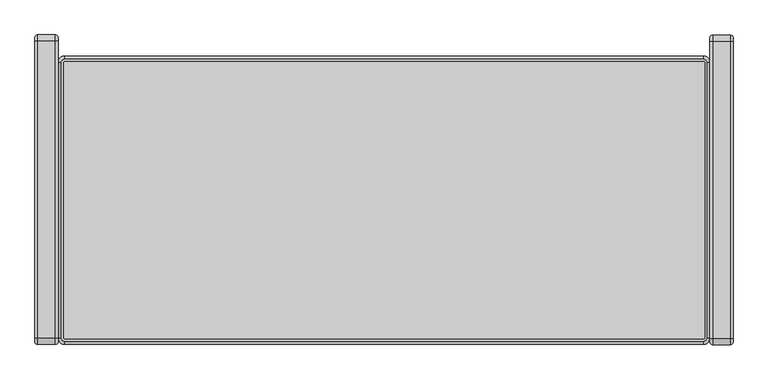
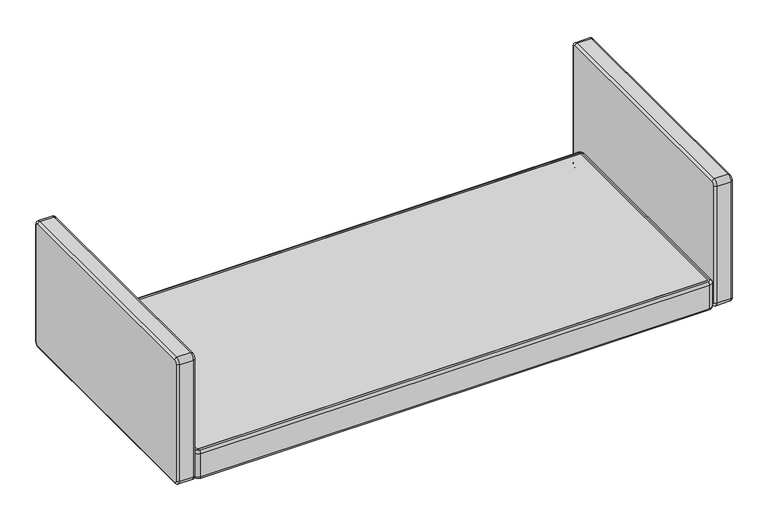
"""IFC4 building model written with IfcOpenShell, lengths in millimetres: furniture geometry, Fredericia - EJ220 Sofa 2 seater 86 - 2052 : Fredericia - EJ220 Sofa 2 seater 86 - 2052."""

from ifc_helpers import new_model, si_unit, point, frame, origin, place, context, project, spatial, circle_curve, ellipse_curve, trimmed, source, transform, mapped, element, save
from ifc_brep_helpers import plane_surface, cylinder_surface, revolved_surface, advanced_brep


def furniture_a04cfc03(model_context):
    return source(origin(), model_context, "Body", "AdvancedBrep", [
        advanced_brep(
        [(-856.6335362, 39.8, 192.7880862), (-856.6335362, 770.9641303, 192.7880862), (-847.0335362, 780.5641303, 192.7880862), (846.5320736, 780.5641303, 192.7880862), (856.1320736, 770.9641303, 192.7880862), (856.1320736, 39.8, 192.7880862), (846.5320736, 30.2, 192.7880862), (-847.0335362, 30.2, 192.7880862), (-847.0335362, 37.7, 290.0), (847.3876929, 37.7, 290.0), (849.4876929, 39.8, 290.0), (849.4876929, 770.9641303, 290.0), (847.3876929, 773.0641303, 290.0), (-847.0335362, 773.0641303, 290.0), (-849.1335362, 770.9641303, 290.0), (-849.1335362, 39.8, 290.0), (-847.0335362, 37.7, 289.8211901), (846.5320736, 37.7, 289.8211901), (847.3876929, 37.7, 289.8211901), (849.4876929, 39.8, 289.8211901), (849.4876929, 770.9641303, 289.8211901), (847.3876929, 773.0641303, 289.8211901), (846.5320736, 773.0641303, 289.8211901), (-847.0335362, 773.0641303, 289.8211901), (-849.1335362, 770.9641303, 289.8211901), (-849.1335362, 39.8, 289.8211901), (-864.1335362, 770.9641303, 200.2880862), (-864.1335362, 39.8, 200.2880862), (-864.1335362, 39.8, 282.3211901), (-864.1335362, 770.9641303, 282.3211901), (-856.6335362, 39.8, 289.8211901), (-856.6335362, 770.9641303, 289.8211901), (-847.0335362, 22.7, 200.2880862), (846.5320736, 22.7, 200.2880862), (846.5320736, 22.7, 282.3211901), (-847.0335362, 22.7, 282.3211901), (846.5320736, 30.2, 289.8211901), (-847.0335362, 30.2, 289.8211901), (863.6320736, 39.8, 200.2880862), (863.6320736, 770.9641303, 200.2880862), (863.6320736, 770.9641303, 282.3211901), (863.6320736, 39.8, 282.3211901), (856.1320736, 770.9641303, 289.8211901), (856.1320736, 39.8, 289.8211901), (846.5320736, 788.0641303, 200.2880862), (-847.0335362, 788.0641303, 200.2880862), (-847.0335362, 788.0641303, 282.3211901), (846.5320736, 788.0641303, 282.3211901), (-847.0335362, 780.5641303, 289.8211901), (846.5320736, 780.5641303, 289.8211901)],
        [
            (0, 1),
            (1, 2, circle_curve(frame((-847.0335362, 770.9641303, 192.7880862), z_axis=(0.0, 0.0, -1.0), x_axis=(0.0, 1.0, 0.0)), 9.6)),
            (2, 3),
            (3, 4, circle_curve(frame((846.5320736, 770.9641303, 192.7880862), z_axis=(0.0, 0.0, -1.0), x_axis=(1.0, 0.0, 0.0)), 9.6)),
            (4, 5),
            (5, 6, circle_curve(frame((846.5320736, 39.8, 192.7880862), z_axis=(0.0, 0.0, -1.0), x_axis=(0.0, -1.0, 0.0)), 9.6)),
            (6, 7),
            (7, 0, circle_curve(frame((-847.0335362, 39.8, 192.7880862), z_axis=(0.0, 0.0, -1.0), x_axis=(-1.0, 0.0, 0.0)), 9.6)),
            (8, 9),
            (9, 10, circle_curve(frame((847.3876929, 39.8, 290.0), z_axis=(0.0, 0.0, 1.0), x_axis=(0.0, 1.0, 0.0)), 2.1)),
            (10, 11),
            (11, 12, circle_curve(frame((847.3876929, 770.9641303, 290.0), z_axis=(0.0, 0.0, 1.0), x_axis=(0.0, 1.0, 0.0)), 2.1)),
            (12, 13),
            (13, 14, circle_curve(frame((-847.0335362, 770.9641303, 290.0), z_axis=(0.0, 0.0, 1.0), x_axis=(0.0, 1.0, 0.0)), 2.1)),
            (14, 15),
            (15, 8, circle_curve(frame((-847.0335362, 39.8, 290.0), z_axis=(0.0, 0.0, 1.0), x_axis=(0.0, 1.0, 0.0)), 2.1)),
            (8, 16),
            (16, 17),
            (17, 18),
            (18, 9),
            (18, 19, circle_curve(frame((847.3876929, 39.8, 289.8211901), z_axis=(0.0, 0.0, 1.0), x_axis=(0.0, 1.0, 0.0)), 2.1)),
            (19, 10),
            (19, 20),
            (20, 11),
            (20, 21, circle_curve(frame((847.3876929, 770.9641303, 289.8211901), z_axis=(0.0, 0.0, 1.0), x_axis=(0.0, 1.0, 0.0)), 2.1)),
            (21, 12),
            (21, 22),
            (22, 23),
            (23, 13),
            (23, 24, circle_curve(frame((-847.0335362, 770.9641303, 289.8211901), z_axis=(0.0, 0.0, 1.0), x_axis=(0.0, 1.0, 0.0)), 2.1)),
            (24, 14),
            (24, 25),
            (25, 15),
            (25, 16, circle_curve(frame((-847.0335362, 39.8, 289.8211901), z_axis=(0.0, 0.0, 1.0), x_axis=(0.0, 1.0, 0.0)), 2.1)),
            (26, 1, circle_curve(frame((-856.6335362, 770.9641303, 200.2880862), z_axis=(0.0, -1.0, 0.0), x_axis=(1.0, 0.0, 0.0)), 7.5)),
            (0, 27, circle_curve(frame((-856.6335362, 39.8, 200.2880862), z_axis=(0.0, 1.0, 0.0), x_axis=(1.0, 0.0, 0.0)), 7.5)),
            (27, 26),
            (27, 28),
            (28, 29),
            (29, 26),
            (28, 30, circle_curve(frame((-856.6335362, 39.8, 282.3211901), z_axis=(0.0, 1.0, 0.0), x_axis=(1.0, 0.0, 0.0)), 7.5)),
            (30, 31),
            (31, 29, circle_curve(frame((-856.6335362, 770.9641303, 282.3211901), z_axis=(0.0, -1.0, 0.0), x_axis=(1.0, 0.0, 0.0)), 7.5)),
            (32, 7, circle_curve(frame((-847.0335362, 30.2, 200.2880862), z_axis=(1.0, 0.0, 0.0), x_axis=(0.0, 1.0, 0.0)), 7.5)),
            (6, 33, circle_curve(frame((846.5320736, 30.2, 200.2880862), z_axis=(-1.0, 0.0, 0.0), x_axis=(0.0, 1.0, 0.0)), 7.5)),
            (33, 32),
            (33, 34),
            (34, 35),
            (35, 32),
            (34, 36, circle_curve(frame((846.5320736, 30.2, 282.3211901), z_axis=(-1.0, 0.0, 0.0), x_axis=(0.0, 1.0, 0.0)), 7.5)),
            (36, 37),
            (37, 35, circle_curve(frame((-847.0335362, 30.2, 282.3211901), z_axis=(1.0, 0.0, 0.0), x_axis=(0.0, 1.0, 0.0)), 7.5)),
            (38, 5, circle_curve(frame((856.1320736, 39.8, 200.2880862), z_axis=(0.0, 1.0, 0.0), x_axis=(-1.0, 0.0, 0.0)), 7.5)),
            (4, 39, circle_curve(frame((856.1320736, 770.9641303, 200.2880862), z_axis=(0.0, -1.0, 0.0), x_axis=(-1.0, 0.0, 0.0)), 7.5)),
            (39, 38),
            (39, 40),
            (40, 41),
            (41, 38),
            (40, 42, circle_curve(frame((856.1320736, 770.9641303, 282.3211901), z_axis=(0.0, -1.0, 0.0), x_axis=(-1.0, 0.0, 0.0)), 7.5)),
            (42, 43),
            (43, 41, circle_curve(frame((856.1320736, 39.8, 282.3211901), z_axis=(0.0, 1.0, 0.0), x_axis=(-1.0, 0.0, 0.0)), 7.5)),
            (44, 3, circle_curve(frame((846.5320736, 780.5641303, 200.2880862), z_axis=(-1.0, 0.0, 0.0), x_axis=(0.0, -1.0, 0.0)), 7.5)),
            (2, 45, circle_curve(frame((-847.0335362, 780.5641303, 200.2880862), z_axis=(1.0, 0.0, 0.0), x_axis=(0.0, -1.0, 0.0)), 7.5)),
            (45, 44),
            (45, 46),
            (46, 47),
            (47, 44),
            (46, 48, circle_curve(frame((-847.0335362, 780.5641303, 282.3211901), z_axis=(1.0, 0.0, 0.0), x_axis=(0.0, -1.0, 0.0)), 7.5)),
            (48, 49),
            (49, 47, circle_curve(frame((846.5320736, 780.5641303, 282.3211901), z_axis=(-1.0, 0.0, 0.0), x_axis=(0.0, -1.0, 0.0)), 7.5)),
            (26, 45, circle_curve(frame((-847.0335362, 770.9641303, 200.2880862), z_axis=(0.0, 0.0, -1.0), x_axis=(0.0, 1.0, 0.0)), 17.1)),
            (29, 46, circle_curve(frame((-847.0335362, 770.9641303, 282.3211901), z_axis=(0.0, 0.0, -1.0), x_axis=(0.0, 1.0, 0.0)), 17.1)),
            (31, 48, circle_curve(frame((-847.0335362, 770.9641303, 289.8211901), z_axis=(0.0, 0.0, -1.0), x_axis=(0.0, 1.0, 0.0)), 9.6)),
            (32, 27, circle_curve(frame((-847.0335362, 39.8, 200.2880862), z_axis=(0.0, 0.0, -1.0), x_axis=(-1.0, 0.0, 0.0)), 17.1)),
            (35, 28, circle_curve(frame((-847.0335362, 39.8, 282.3211901), z_axis=(0.0, 0.0, -1.0), x_axis=(-1.0, 0.0, 0.0)), 17.1)),
            (37, 30, circle_curve(frame((-847.0335362, 39.8, 289.8211901), z_axis=(0.0, 0.0, -1.0), x_axis=(-1.0, 0.0, 0.0)), 9.6)),
            (38, 33, circle_curve(frame((846.5320736, 39.8, 200.2880862), z_axis=(0.0, 0.0, -1.0), x_axis=(0.0, -1.0, 0.0)), 17.1)),
            (41, 34, circle_curve(frame((846.5320736, 39.8, 282.3211901), z_axis=(0.0, 0.0, -1.0), x_axis=(0.0, -1.0, 0.0)), 17.1)),
            (43, 36, circle_curve(frame((846.5320736, 39.8, 289.8211901), z_axis=(0.0, 0.0, -1.0), x_axis=(0.0, -1.0, 0.0)), 9.6)),
            (44, 39, circle_curve(frame((846.5320736, 770.9641303, 200.2880862), z_axis=(0.0, 0.0, -1.0), x_axis=(1.0, 0.0, 0.0)), 17.1)),
            (47, 40, circle_curve(frame((846.5320736, 770.9641303, 282.3211901), z_axis=(0.0, 0.0, -1.0), x_axis=(1.0, 0.0, 0.0)), 17.1)),
            (49, 42, circle_curve(frame((846.5320736, 770.9641303, 289.8211901), z_axis=(0.0, 0.0, -1.0), x_axis=(1.0, 0.0, 0.0)), 9.6)),
        ],
        [
            plane_surface(frame((401.9530797, 37.7, 192.7880862), z_axis=(0.0, 0.0, -1.0), x_axis=(-1.0, 0.0, 0.0))),
            plane_surface(frame((401.9530797, 37.7, 290.0), z_axis=(0.0, 0.0, 1.0), x_axis=(1.0, 0.0, 0.0))),
            plane_surface(frame((-847.0335362, 37.7, 290.0), z_axis=(0.0, -1.0, 0.0), x_axis=(0.0, 0.0, -1.0))),
            cylinder_surface(frame((847.3876929, 39.8, 192.7880862), z_axis=(0.0, 0.0, 1.0), x_axis=(0.0, 1.0, 0.0)), 2.1),
            plane_surface(frame((849.4876929, 39.8, 290.0), z_axis=(1.0, 0.0, 0.0), x_axis=(0.0, 0.0, -1.0))),
            cylinder_surface(frame((847.3876929, 770.9641303, 192.7880862), z_axis=(0.0, 0.0, 1.0), x_axis=(0.0, 1.0, 0.0)), 2.1),
            plane_surface(frame((847.3876929, 773.0641303, 290.0), z_axis=(0.0, 1.0, 0.0), x_axis=(0.0, 0.0, -1.0))),
            cylinder_surface(frame((-847.0335362, 770.9641303, 192.7880862), z_axis=(0.0, 0.0, 1.0), x_axis=(0.0, 1.0, 0.0)), 2.1),
            plane_surface(frame((-849.1335362, 770.9641303, 290.0), z_axis=(-1.0, 0.0, 0.0), x_axis=(0.0, 0.0, -1.0))),
            cylinder_surface(frame((-847.0335362, 39.8, 192.7880862), z_axis=(0.0, 0.0, 1.0), x_axis=(0.0, 1.0, 0.0)), 2.1),
            cylinder_surface(frame((-856.6335362, 770.9641303, 200.2880862), z_axis=(0.0, 1.0, 0.0), x_axis=(1.0, 0.0, 0.0)), 7.5),
            plane_surface(frame((-864.1335362, 770.9641303, 200.2880862), z_axis=(-1.0, 0.0, 0.0), x_axis=(0.0, -1.0, 0.0))),
            cylinder_surface(frame((-856.6335362, 770.9641303, 282.3211901), z_axis=(0.0, 1.0, 0.0), x_axis=(1.0, 0.0, 0.0)), 7.5),
            cylinder_surface(frame((-847.0335362, 30.2, 200.2880862), z_axis=(-1.0, 0.0, 0.0), x_axis=(0.0, 1.0, 0.0)), 7.5),
            plane_surface(frame((-847.0335362, 22.7, 200.2880862), z_axis=(0.0, -1.0, 0.0), x_axis=(1.0, 0.0, 0.0))),
            cylinder_surface(frame((-847.0335362, 30.2, 282.3211901), z_axis=(-1.0, 0.0, 0.0), x_axis=(0.0, 1.0, 0.0)), 7.5),
            cylinder_surface(frame((856.1320736, 39.8, 200.2880862), z_axis=(0.0, -1.0, 0.0), x_axis=(-1.0, 0.0, 0.0)), 7.5),
            plane_surface(frame((863.6320736, 39.8, 200.2880862), z_axis=(1.0, 0.0, 0.0), x_axis=(0.0, 1.0, 0.0))),
            cylinder_surface(frame((856.1320736, 39.8, 282.3211901), z_axis=(0.0, -1.0, 0.0), x_axis=(-1.0, 0.0, 0.0)), 7.5),
            cylinder_surface(frame((846.5320736, 780.5641303, 200.2880862), z_axis=(1.0, 0.0, 0.0), x_axis=(0.0, -1.0, 0.0)), 7.5),
            plane_surface(frame((846.5320736, 788.0641303, 200.2880862), z_axis=(0.0, 1.0, 0.0), x_axis=(-1.0, 0.0, 0.0))),
            cylinder_surface(frame((846.5320736, 780.5641303, 282.3211901), z_axis=(1.0, 0.0, 0.0), x_axis=(0.0, -1.0, 0.0)), 7.5),
            revolved_surface(trimmed(ellipse_curve(frame((-847.0335362, 780.5641303, 200.2880862), z_axis=(1.0, 0.0, 0.0), x_axis=(0.0, -1.0, 0.0)), 7.5, 7.5), [point((-847.0335362, 780.5641303, 192.7880862))], [point((-847.0335362, 788.0641303, 200.2880862))], True, "CARTESIAN"), (-847.0335362, 770.9641303, 334.7169816), (0.0, 0.0, 1.0)),
            cylinder_surface(frame((-847.0335362, 770.9641303, 334.7169816), z_axis=(0.0, 0.0, 1.0), x_axis=(0.0, 1.0, 0.0)), 17.1),
            revolved_surface(trimmed(ellipse_curve(frame((-847.0335362, 780.5641303, 282.3211901), z_axis=(1.0, 0.0, 0.0), x_axis=(0.0, -1.0, 0.0)), 7.5, 7.5), [point((-847.0335362, 788.0641303, 282.3211901))], [point((-847.0335362, 780.5641303, 289.8211901))], True, "CARTESIAN"), (-847.0335362, 770.9641303, 334.7169816), (0.0, 0.0, 1.0)),
            revolved_surface(trimmed(ellipse_curve(frame((-856.6335362, 39.8, 200.2880862), z_axis=(0.0, 1.0, 0.0), x_axis=(1.0, 0.0, 0.0)), 7.5, 7.5), [point((-856.6335362, 39.8, 192.7880862))], [point((-864.1335362, 39.8, 200.2880862))], True, "CARTESIAN"), (-847.0335362, 39.8, 334.7169816), (0.0, 0.0, 1.0)),
            cylinder_surface(frame((-847.0335362, 39.8, 334.7169816), z_axis=(0.0, 0.0, 1.0), x_axis=(-1.0, 0.0, 0.0)), 17.1),
            revolved_surface(trimmed(ellipse_curve(frame((-856.6335362, 39.8, 282.3211901), z_axis=(0.0, 1.0, 0.0), x_axis=(1.0, 0.0, 0.0)), 7.5, 7.5), [point((-864.1335362, 39.8, 282.3211901))], [point((-856.6335362, 39.8, 289.8211901))], True, "CARTESIAN"), (-847.0335362, 39.8, 334.7169816), (0.0, 0.0, 1.0)),
            revolved_surface(trimmed(ellipse_curve(frame((846.5320736, 30.2, 200.2880862), z_axis=(-1.0, 0.0, 0.0), x_axis=(0.0, 1.0, 0.0)), 7.5, 7.5), [point((846.5320736, 30.2, 192.7880862))], [point((846.5320736, 22.7, 200.2880862))], True, "CARTESIAN"), (846.5320736, 39.8, 334.7169816), (0.0, 0.0, 1.0)),
            cylinder_surface(frame((846.5320736, 39.8, 334.7169816), z_axis=(0.0, 0.0, 1.0), x_axis=(0.0, -1.0, 0.0)), 17.1),
            revolved_surface(trimmed(ellipse_curve(frame((846.5320736, 30.2, 282.3211901), z_axis=(-1.0, 0.0, 0.0), x_axis=(0.0, 1.0, 0.0)), 7.5, 7.5), [point((846.5320736, 22.7, 282.3211901))], [point((846.5320736, 30.2, 289.8211901))], True, "CARTESIAN"), (846.5320736, 39.8, 334.7169816), (0.0, 0.0, 1.0)),
            revolved_surface(trimmed(ellipse_curve(frame((856.1320736, 770.9641303, 200.2880862), z_axis=(0.0, -1.0, 0.0), x_axis=(-1.0, 0.0, 0.0)), 7.5, 7.5), [point((856.1320736, 770.9641303, 192.7880862))], [point((863.6320736, 770.9641303, 200.2880862))], True, "CARTESIAN"), (846.5320736, 770.9641303, 334.7169816), (0.0, 0.0, 1.0)),
            cylinder_surface(frame((846.5320736, 770.9641303, 334.7169816), z_axis=(0.0, 0.0, 1.0), x_axis=(1.0, 0.0, 0.0)), 17.1),
            revolved_surface(trimmed(ellipse_curve(frame((856.1320736, 770.9641303, 282.3211901), z_axis=(0.0, -1.0, 0.0), x_axis=(-1.0, 0.0, 0.0)), 7.5, 7.5), [point((863.6320736, 770.9641303, 282.3211901))], [point((856.1320736, 770.9641303, 289.8211901))], True, "CARTESIAN"), (846.5320736, 770.9641303, 334.7169816), (0.0, 0.0, 1.0)),
            plane_surface(frame((846.5320736, 770.9641303, 289.8211901), z_axis=(0.0, 0.0, 1.0), x_axis=(1.0, 0.0, 0.0))),
        ],
        [
            (0, [[1, 2, 3, 4, 5, 6, 7, 8]]),
            (1, [[9, 10, 11, 12, 13, 14, 15, 16]]),
            (2, [[-9, 17, 18, 19, 20]]),
            (3, [[-10, -20, 21, 22]]),
            (4, [[-11, -22, 23, 24]]),
            (5, [[-12, -24, 25, 26]]),
            (6, [[-13, -26, 27, 28, 29]]),
            (7, [[-14, -29, 30, 31]]),
            (8, [[-15, -31, 32, 33]]),
            (9, [[-16, -33, 34, -17]]),
            (10, [[35, -1, 36, 37]]),
            (11, [[-37, 38, 39, 40]]),
            (12, [[-39, 41, 42, 43]]),
            (13, [[44, -7, 45, 46]]),
            (14, [[-46, 47, 48, 49]]),
            (15, [[-48, 50, 51, 52]]),
            (16, [[53, -5, 54, 55]]),
            (17, [[-55, 56, 57, 58]]),
            (18, [[-57, 59, 60, 61]]),
            (19, [[62, -3, 63, 64]]),
            (20, [[-64, 65, 66, 67]]),
            (21, [[-66, 68, 69, 70]]),
            (22, [[-35, 71, -63, -2]]),
            (23, [[-40, 72, -65, -71]]),
            (24, [[-43, 73, -68, -72]]),
            (25, [[-36, -8, -44, 74]]),
            (26, [[-38, -74, -49, 75]]),
            (27, [[-41, -75, -52, 76]]),
            (28, [[-45, -6, -53, 77]]),
            (29, [[-47, -77, -58, 78]]),
            (30, [[-50, -78, -61, 79]]),
            (31, [[-54, -4, -62, 80]]),
            (32, [[-56, -80, -67, 81]]),
            (33, [[-59, -81, -70, 82]]),
            (34, [[-42, -76, -51, -79, -60, -82, -69, -73], [-18, -34, -32, -30, -28, -27, -25, -23, -21, -19]]),
        ],
    ),
        advanced_brep(
        [(863.6320736, 29.3862242, 212.3047209), (863.6320736, 29.3862242, 622.6791088), (863.6320736, 38.9862242, 632.2791088), (863.6320736, 826.4456131, 632.2791088), (863.6320736, 836.0456131, 622.6791088), (863.6320736, 836.0456131, 212.3047209), (863.6320736, 826.4456131, 202.7047209), (863.6320736, 38.9862242, 202.7047209), (925.0578822, 29.3862242, 622.6791088), (925.0578822, 29.3862242, 212.3047209), (925.0578822, 38.9862242, 202.7047209), (925.0578822, 826.4456131, 202.7047209), (925.0578822, 836.0456131, 212.3047209), (925.0578822, 836.0456131, 622.6791088), (925.0578822, 826.4456131, 632.2791088), (925.0578822, 38.9862242, 632.2791088), (871.1320736, 21.8862242, 212.3047209), (871.1320736, 21.8862242, 622.6791088), (917.5578822, 21.8862242, 212.3047209), (917.5578822, 21.8862242, 622.6791088), (871.1320736, 38.9862242, 639.7791088), (871.1320736, 826.4456131, 639.7791088), (917.5578822, 38.9862242, 639.7791088), (917.5578822, 826.4456131, 639.7791088), (871.1320736, 843.5456131, 622.6791088), (871.1320736, 843.5456131, 212.3047209), (917.5578822, 843.5456131, 622.6791088), (917.5578822, 843.5456131, 212.3047209), (871.1320736, 826.4456131, 195.2047209), (871.1320736, 38.9862242, 195.2047209), (917.5578822, 826.4456131, 195.2047209), (917.5578822, 38.9862242, 195.2047209)],
        [
            (0, 1),
            (1, 2, circle_curve(frame((863.6320736, 38.9862242, 622.6791088), z_axis=(-1.0, 0.0, 0.0), x_axis=(0.0, -1.0, 0.0)), 9.6)),
            (2, 3),
            (3, 4, circle_curve(frame((863.6320736, 826.4456131, 622.6791088), z_axis=(-1.0, 0.0, 0.0), x_axis=(0.0, 0.0, 1.0)), 9.6)),
            (4, 5),
            (5, 6, circle_curve(frame((863.6320736, 826.4456131, 212.3047209), z_axis=(-1.0, 0.0, 0.0), x_axis=(0.0, 1.0, 0.0)), 9.6)),
            (6, 7),
            (7, 0, circle_curve(frame((863.6320736, 38.9862242, 212.3047209), z_axis=(-1.0, 0.0, 0.0), x_axis=(0.0, 0.0, -1.0)), 9.6)),
            (8, 9),
            (9, 10, circle_curve(frame((925.0578822, 38.9862242, 212.3047209), z_axis=(1.0, 0.0, 0.0), x_axis=(0.0, 0.0, -1.0)), 9.6)),
            (10, 11),
            (11, 12, circle_curve(frame((925.0578822, 826.4456131, 212.3047209), z_axis=(1.0, 0.0, 0.0), x_axis=(0.0, 1.0, 0.0)), 9.6)),
            (12, 13),
            (13, 14, circle_curve(frame((925.0578822, 826.4456131, 622.6791088), z_axis=(1.0, 0.0, 0.0), x_axis=(0.0, 0.0, 1.0)), 9.6)),
            (14, 15),
            (15, 8, circle_curve(frame((925.0578822, 38.9862242, 622.6791088), z_axis=(1.0, 0.0, 0.0), x_axis=(0.0, -1.0, 0.0)), 9.6)),
            (0, 16, circle_curve(frame((871.1320736, 29.3862242, 212.3047209), z_axis=(0.0, 0.0, 1.0), x_axis=(0.0, 1.0, 0.0)), 7.5)),
            (16, 17),
            (17, 1, circle_curve(frame((871.1320736, 29.3862242, 622.6791088), z_axis=(0.0, 0.0, -1.0), x_axis=(0.0, 1.0, 0.0)), 7.5)),
            (16, 18),
            (18, 19),
            (19, 17),
            (18, 9, circle_curve(frame((917.5578822, 29.3862242, 212.3047209), z_axis=(0.0, 0.0, 1.0), x_axis=(0.0, 1.0, 0.0)), 7.5)),
            (8, 19, circle_curve(frame((917.5578822, 29.3862242, 622.6791088), z_axis=(0.0, 0.0, -1.0), x_axis=(0.0, 1.0, 0.0)), 7.5)),
            (2, 20, circle_curve(frame((871.1320736, 38.9862242, 632.2791088), z_axis=(0.0, 1.0, 0.0), x_axis=(0.0, 0.0, -1.0)), 7.5)),
            (20, 21),
            (21, 3, circle_curve(frame((871.1320736, 826.4456131, 632.2791088), z_axis=(0.0, -1.0, 0.0), x_axis=(0.0, 0.0, -1.0)), 7.5)),
            (20, 22),
            (22, 23),
            (23, 21),
            (22, 15, circle_curve(frame((917.5578822, 38.9862242, 632.2791088), z_axis=(0.0, 1.0, 0.0), x_axis=(0.0, 0.0, -1.0)), 7.5)),
            (14, 23, circle_curve(frame((917.5578822, 826.4456131, 632.2791088), z_axis=(0.0, -1.0, 0.0), x_axis=(0.0, 0.0, -1.0)), 7.5)),
            (4, 24, circle_curve(frame((871.1320736, 836.0456131, 622.6791088), z_axis=(0.0, 0.0, -1.0), x_axis=(0.0, -1.0, 0.0)), 7.5)),
            (24, 25),
            (25, 5, circle_curve(frame((871.1320736, 836.0456131, 212.3047209), z_axis=(0.0, 0.0, 1.0), x_axis=(0.0, -1.0, 0.0)), 7.5)),
            (24, 26),
            (26, 27),
            (27, 25),
            (26, 13, circle_curve(frame((917.5578822, 836.0456131, 622.6791088), z_axis=(0.0, 0.0, -1.0), x_axis=(0.0, -1.0, 0.0)), 7.5)),
            (12, 27, circle_curve(frame((917.5578822, 836.0456131, 212.3047209), z_axis=(0.0, 0.0, 1.0), x_axis=(0.0, -1.0, 0.0)), 7.5)),
            (6, 28, circle_curve(frame((871.1320736, 826.4456131, 202.7047209), z_axis=(0.0, -1.0, 0.0), x_axis=(0.0, 0.0, 1.0)), 7.5)),
            (28, 29),
            (29, 7, circle_curve(frame((871.1320736, 38.9862242, 202.7047209), z_axis=(0.0, 1.0, 0.0), x_axis=(0.0, 0.0, 1.0)), 7.5)),
            (28, 30),
            (30, 31),
            (31, 29),
            (30, 11, circle_curve(frame((917.5578822, 826.4456131, 202.7047209), z_axis=(0.0, -1.0, 0.0), x_axis=(0.0, 0.0, 1.0)), 7.5)),
            (10, 31, circle_curve(frame((917.5578822, 38.9862242, 202.7047209), z_axis=(0.0, 1.0, 0.0), x_axis=(0.0, 0.0, 1.0)), 7.5)),
            (29, 16, circle_curve(frame((871.1320736, 38.9862242, 212.3047209), z_axis=(-1.0, 0.0, 0.0), x_axis=(0.0, 0.0, -1.0)), 17.1)),
            (31, 18, circle_curve(frame((917.5578822, 38.9862242, 212.3047209), z_axis=(-1.0, 0.0, 0.0), x_axis=(0.0, 0.0, -1.0)), 17.1)),
            (17, 20, circle_curve(frame((871.1320736, 38.9862242, 622.6791088), z_axis=(-1.0, 0.0, 0.0), x_axis=(0.0, -1.0, 0.0)), 17.1)),
            (19, 22, circle_curve(frame((917.5578822, 38.9862242, 622.6791088), z_axis=(-1.0, 0.0, 0.0), x_axis=(0.0, -1.0, 0.0)), 17.1)),
            (21, 24, circle_curve(frame((871.1320736, 826.4456131, 622.6791088), z_axis=(-1.0, 0.0, 0.0), x_axis=(0.0, 0.0, 1.0)), 17.1)),
            (23, 26, circle_curve(frame((917.5578822, 826.4456131, 622.6791088), z_axis=(-1.0, 0.0, 0.0), x_axis=(0.0, 0.0, 1.0)), 17.1)),
            (25, 28, circle_curve(frame((871.1320736, 826.4456131, 212.3047209), z_axis=(-1.0, 0.0, 0.0), x_axis=(0.0, 1.0, 0.0)), 17.1)),
            (27, 30, circle_curve(frame((917.5578822, 826.4456131, 212.3047209), z_axis=(-1.0, 0.0, 0.0), x_axis=(0.0, 1.0, 0.0)), 17.1)),
        ],
        [
            plane_surface(frame((863.6320736, 38.9862242, 620.5791088), z_axis=(-1.0, 0.0, 0.0), x_axis=(0.0, -1.0, 0.0))),
            plane_surface(frame((925.0578822, 38.9862242, 620.5791088), z_axis=(1.0, 0.0, 0.0), x_axis=(0.0, 1.0, 0.0))),
            cylinder_surface(frame((871.1320736, 29.3862242, 212.3047209), z_axis=(0.0, 0.0, -1.0), x_axis=(0.0, 1.0, 0.0)), 7.5),
            plane_surface(frame((917.5578822, 21.8862242, 212.3047209), z_axis=(0.0, -1.0, 0.0), x_axis=(0.0, 0.0, 1.0))),
            cylinder_surface(frame((917.5578822, 29.3862242, 212.3047209), z_axis=(0.0, 0.0, -1.0), x_axis=(0.0, 1.0, 0.0)), 7.5),
            cylinder_surface(frame((871.1320736, 38.9862242, 632.2791088), z_axis=(0.0, -1.0, 0.0), x_axis=(0.0, 0.0, -1.0)), 7.5),
            plane_surface(frame((917.5578822, 38.9862242, 639.7791088), z_axis=(0.0, 0.0, 1.0), x_axis=(0.0, 1.0, 0.0))),
            cylinder_surface(frame((917.5578822, 38.9862242, 632.2791088), z_axis=(0.0, -1.0, 0.0), x_axis=(0.0, 0.0, -1.0)), 7.5),
            cylinder_surface(frame((871.1320736, 836.0456131, 622.6791088), z_axis=(0.0, 0.0, 1.0), x_axis=(0.0, -1.0, 0.0)), 7.5),
            plane_surface(frame((917.5578822, 843.5456131, 622.6791088), z_axis=(0.0, 1.0, 0.0), x_axis=(0.0, 0.0, -1.0))),
            cylinder_surface(frame((917.5578822, 836.0456131, 622.6791088), z_axis=(0.0, 0.0, 1.0), x_axis=(0.0, -1.0, 0.0)), 7.5),
            cylinder_surface(frame((871.1320736, 826.4456131, 202.7047209), z_axis=(0.0, 1.0, 0.0), x_axis=(0.0, 0.0, 1.0)), 7.5),
            plane_surface(frame((917.5578822, 826.4456131, 195.2047209), z_axis=(0.0, 0.0, -1.0), x_axis=(0.0, -1.0, 0.0))),
            cylinder_surface(frame((917.5578822, 826.4456131, 202.7047209), z_axis=(0.0, 1.0, 0.0), x_axis=(0.0, 0.0, 1.0)), 7.5),
            revolved_surface(trimmed(ellipse_curve(frame((871.1320736, 38.9862242, 202.7047209), z_axis=(0.0, 1.0, 0.0), x_axis=(0.0, 0.0, 1.0)), 7.5, 7.5), [point((871.1320736, 38.9862242, 195.2047209))], [point((863.6320736, 38.9862242, 202.7047209))], True, "CARTESIAN"), (925.0578822, 38.9862242, 212.3047209), (-1.0, 0.0, 0.0)),
            cylinder_surface(frame((925.0578822, 38.9862242, 212.3047209), z_axis=(-1.0, 0.0, 0.0), x_axis=(0.0, 0.0, -1.0)), 17.1),
            revolved_surface(trimmed(ellipse_curve(frame((917.5578822, 38.9862242, 202.7047209), z_axis=(0.0, 1.0, 0.0), x_axis=(0.0, 0.0, 1.0)), 7.5, 7.5), [point((925.0578822, 38.9862242, 202.7047209))], [point((917.5578822, 38.9862242, 195.2047209))], True, "CARTESIAN"), (925.0578822, 38.9862242, 212.3047209), (-1.0, 0.0, 0.0)),
            revolved_surface(trimmed(ellipse_curve(frame((871.1320736, 29.3862242, 622.6791088), z_axis=(0.0, 0.0, -1.0), x_axis=(0.0, 1.0, 0.0)), 7.5, 7.5), [point((871.1320736, 21.8862242, 622.6791088))], [point((863.6320736, 29.3862242, 622.6791088))], True, "CARTESIAN"), (925.0578822, 38.9862242, 622.6791088), (-1.0, 0.0, 0.0)),
            cylinder_surface(frame((925.0578822, 38.9862242, 622.6791088), z_axis=(-1.0, 0.0, 0.0), x_axis=(0.0, -1.0, 0.0)), 17.1),
            revolved_surface(trimmed(ellipse_curve(frame((917.5578822, 29.3862242, 622.6791088), z_axis=(0.0, 0.0, -1.0), x_axis=(0.0, 1.0, 0.0)), 7.5, 7.5), [point((925.0578822, 29.3862242, 622.6791088))], [point((917.5578822, 21.8862242, 622.6791088))], True, "CARTESIAN"), (925.0578822, 38.9862242, 622.6791088), (-1.0, 0.0, 0.0)),
            revolved_surface(trimmed(ellipse_curve(frame((871.1320736, 826.4456131, 632.2791088), z_axis=(0.0, -1.0, 0.0), x_axis=(0.0, 0.0, -1.0)), 7.5, 7.5), [point((871.1320736, 826.4456131, 639.7791088))], [point((863.6320736, 826.4456131, 632.2791088))], True, "CARTESIAN"), (925.0578822, 826.4456131, 622.6791088), (-1.0, 0.0, 0.0)),
            cylinder_surface(frame((925.0578822, 826.4456131, 622.6791088), z_axis=(-1.0, 0.0, 0.0), x_axis=(0.0, 0.0, 1.0)), 17.1),
            revolved_surface(trimmed(ellipse_curve(frame((917.5578822, 826.4456131, 632.2791088), z_axis=(0.0, -1.0, 0.0), x_axis=(0.0, 0.0, -1.0)), 7.5, 7.5), [point((925.0578822, 826.4456131, 632.2791088))], [point((917.5578822, 826.4456131, 639.7791088))], True, "CARTESIAN"), (925.0578822, 826.4456131, 622.6791088), (-1.0, 0.0, 0.0)),
            revolved_surface(trimmed(ellipse_curve(frame((871.1320736, 836.0456131, 212.3047209), z_axis=(0.0, 0.0, 1.0), x_axis=(0.0, -1.0, 0.0)), 7.5, 7.5), [point((871.1320736, 843.5456131, 212.3047209))], [point((863.6320736, 836.0456131, 212.3047209))], True, "CARTESIAN"), (925.0578822, 826.4456131, 212.3047209), (-1.0, 0.0, 0.0)),
            cylinder_surface(frame((925.0578822, 826.4456131, 212.3047209), z_axis=(-1.0, 0.0, 0.0), x_axis=(0.0, 1.0, 0.0)), 17.1),
            revolved_surface(trimmed(ellipse_curve(frame((917.5578822, 836.0456131, 212.3047209), z_axis=(0.0, 0.0, 1.0), x_axis=(0.0, -1.0, 0.0)), 7.5, 7.5), [point((925.0578822, 836.0456131, 212.3047209))], [point((917.5578822, 843.5456131, 212.3047209))], True, "CARTESIAN"), (925.0578822, 826.4456131, 212.3047209), (-1.0, 0.0, 0.0)),
        ],
        [
            (0, [[1, 2, 3, 4, 5, 6, 7, 8]]),
            (1, [[9, 10, 11, 12, 13, 14, 15, 16]]),
            (2, [[17, 18, 19, -1]]),
            (3, [[-18, 20, 21, 22]]),
            (4, [[-21, 23, -9, 24]]),
            (5, [[25, 26, 27, -3]]),
            (6, [[-26, 28, 29, 30]]),
            (7, [[-29, 31, -15, 32]]),
            (8, [[33, 34, 35, -5]]),
            (9, [[-34, 36, 37, 38]]),
            (10, [[-37, 39, -13, 40]]),
            (11, [[41, 42, 43, -7]]),
            (12, [[-42, 44, 45, 46]]),
            (13, [[-45, 47, -11, 48]]),
            (14, [[-17, -8, -43, 49]]),
            (15, [[-20, -49, -46, 50]]),
            (16, [[-23, -50, -48, -10]]),
            (17, [[-19, 51, -25, -2]]),
            (18, [[-22, 52, -28, -51]]),
            (19, [[-24, -16, -31, -52]]),
            (20, [[-27, 53, -33, -4]]),
            (21, [[-30, 54, -36, -53]]),
            (22, [[-32, -14, -39, -54]]),
            (23, [[-35, 55, -41, -6]]),
            (24, [[-38, 56, -44, -55]]),
            (25, [[-40, -12, -47, -56]]),
        ],
    ),
        advanced_brep(
        [(-864.1335362, 30.0408096, 620.2295429), (-864.1335362, 30.0408096, 209.855155), (-864.1335362, 39.6408096, 200.255155), (-864.1335362, 827.1001985, 200.255155), (-864.1335362, 836.7001985, 209.855155), (-864.1335362, 836.7001985, 620.2295429), (-864.1335362, 827.1001985, 629.8295429), (-864.1335362, 39.6408096, 629.8295429), (-925.5624055, 30.0408096, 209.855155), (-925.5624055, 30.0408096, 620.2295429), (-925.5624055, 39.6408096, 629.8295429), (-925.5624055, 827.1001985, 629.8295429), (-925.5624055, 836.7001985, 620.2295429), (-925.5624055, 836.7001985, 209.855155), (-925.5624055, 827.1001985, 200.255155), (-925.5624055, 39.6408096, 200.255155), (-871.6335362, 22.5408096, 209.855155), (-871.6335362, 22.5408096, 620.2295429), (-918.0624055, 22.5408096, 620.2295429), (-918.0624055, 22.5408096, 209.855155), (-871.6335362, 39.6408096, 637.3295429), (-871.6335362, 827.1001985, 637.3295429), (-918.0624055, 827.1001985, 637.3295429), (-918.0624055, 39.6408096, 637.3295429), (-871.6335362, 844.2001985, 620.2295429), (-871.6335362, 844.2001985, 209.855155), (-918.0624055, 844.2001985, 209.855155), (-918.0624055, 844.2001985, 620.2295429), (-871.6335362, 827.1001985, 192.755155), (-871.6335362, 39.6408096, 192.755155), (-918.0624055, 39.6408096, 192.755155), (-918.0624055, 827.1001985, 192.755155)],
        [
            (0, 1),
            (1, 2, circle_curve(frame((-864.1335362, 39.6408096, 209.855155), z_axis=(1.0, 0.0, 0.0), x_axis=(0.0, 0.0, -1.0)), 9.6)),
            (2, 3),
            (3, 4, circle_curve(frame((-864.1335362, 827.1001985, 209.855155), z_axis=(1.0, 0.0, 0.0), x_axis=(0.0, 1.0, 0.0)), 9.6)),
            (4, 5),
            (5, 6, circle_curve(frame((-864.1335362, 827.1001985, 620.2295429), z_axis=(1.0, 0.0, 0.0), x_axis=(0.0, 0.0, 1.0)), 9.6)),
            (6, 7),
            (7, 0, circle_curve(frame((-864.1335362, 39.6408096, 620.2295429), z_axis=(1.0, 0.0, 0.0), x_axis=(0.0, -1.0, 0.0)), 9.6)),
            (8, 9),
            (9, 10, circle_curve(frame((-925.5624055, 39.6408096, 620.2295429), z_axis=(-1.0, 0.0, 0.0), x_axis=(0.0, -1.0, 0.0)), 9.6)),
            (10, 11),
            (11, 12, circle_curve(frame((-925.5624055, 827.1001985, 620.2295429), z_axis=(-1.0, 0.0, 0.0), x_axis=(0.0, 0.0, 1.0)), 9.6)),
            (12, 13),
            (13, 14, circle_curve(frame((-925.5624055, 827.1001985, 209.855155), z_axis=(-1.0, 0.0, 0.0), x_axis=(0.0, 1.0, 0.0)), 9.6)),
            (14, 15),
            (15, 8, circle_curve(frame((-925.5624055, 39.6408096, 209.855155), z_axis=(-1.0, 0.0, 0.0), x_axis=(0.0, 0.0, -1.0)), 9.6)),
            (16, 1, circle_curve(frame((-871.6335362, 30.0408096, 209.855155), z_axis=(0.0, 0.0, 1.0), x_axis=(0.0, 1.0, 0.0)), 7.5)),
            (0, 17, circle_curve(frame((-871.6335362, 30.0408096, 620.2295429), z_axis=(0.0, 0.0, -1.0), x_axis=(0.0, 1.0, 0.0)), 7.5)),
            (17, 16),
            (17, 18),
            (18, 19),
            (19, 16),
            (18, 9, circle_curve(frame((-918.0624055, 30.0408096, 620.2295429), z_axis=(0.0, 0.0, -1.0), x_axis=(0.0, 1.0, 0.0)), 7.5)),
            (8, 19, circle_curve(frame((-918.0624055, 30.0408096, 209.855155), z_axis=(0.0, 0.0, 1.0), x_axis=(0.0, 1.0, 0.0)), 7.5)),
            (20, 7, circle_curve(frame((-871.6335362, 39.6408096, 629.8295429), z_axis=(0.0, 1.0, 0.0), x_axis=(0.0, 0.0, -1.0)), 7.5)),
            (6, 21, circle_curve(frame((-871.6335362, 827.1001985, 629.8295429), z_axis=(0.0, -1.0, 0.0), x_axis=(0.0, 0.0, -1.0)), 7.5)),
            (21, 20),
            (21, 22),
            (22, 23),
            (23, 20),
            (22, 11, circle_curve(frame((-918.0624055, 827.1001985, 629.8295429), z_axis=(0.0, -1.0, 0.0), x_axis=(0.0, 0.0, -1.0)), 7.5)),
            (10, 23, circle_curve(frame((-918.0624055, 39.6408096, 629.8295429), z_axis=(0.0, 1.0, 0.0), x_axis=(0.0, 0.0, -1.0)), 7.5)),
            (24, 5, circle_curve(frame((-871.6335362, 836.7001985, 620.2295429), z_axis=(0.0, 0.0, -1.0), x_axis=(0.0, -1.0, 0.0)), 7.5)),
            (4, 25, circle_curve(frame((-871.6335362, 836.7001985, 209.855155), z_axis=(0.0, 0.0, 1.0), x_axis=(0.0, -1.0, 0.0)), 7.5)),
            (25, 24),
            (25, 26),
            (26, 27),
            (27, 24),
            (26, 13, circle_curve(frame((-918.0624055, 836.7001985, 209.855155), z_axis=(0.0, 0.0, 1.0), x_axis=(0.0, -1.0, 0.0)), 7.5)),
            (12, 27, circle_curve(frame((-918.0624055, 836.7001985, 620.2295429), z_axis=(0.0, 0.0, -1.0), x_axis=(0.0, -1.0, 0.0)), 7.5)),
            (28, 3, circle_curve(frame((-871.6335362, 827.1001985, 200.255155), z_axis=(0.0, -1.0, 0.0), x_axis=(0.0, 0.0, 1.0)), 7.5)),
            (2, 29, circle_curve(frame((-871.6335362, 39.6408096, 200.255155), z_axis=(0.0, 1.0, 0.0), x_axis=(0.0, 0.0, 1.0)), 7.5)),
            (29, 28),
            (29, 30),
            (30, 31),
            (31, 28),
            (30, 15, circle_curve(frame((-918.0624055, 39.6408096, 200.255155), z_axis=(0.0, 1.0, 0.0), x_axis=(0.0, 0.0, 1.0)), 7.5)),
            (14, 31, circle_curve(frame((-918.0624055, 827.1001985, 200.255155), z_axis=(0.0, -1.0, 0.0), x_axis=(0.0, 0.0, 1.0)), 7.5)),
            (16, 29, circle_curve(frame((-871.6335362, 39.6408096, 209.855155), z_axis=(1.0, 0.0, 0.0), x_axis=(0.0, 0.0, -1.0)), 17.1)),
            (19, 30, circle_curve(frame((-918.0624055, 39.6408096, 209.855155), z_axis=(1.0, 0.0, 0.0), x_axis=(0.0, 0.0, -1.0)), 17.1)),
            (20, 17, circle_curve(frame((-871.6335362, 39.6408096, 620.2295429), z_axis=(1.0, 0.0, 0.0), x_axis=(0.0, -1.0, 0.0)), 17.1)),
            (23, 18, circle_curve(frame((-918.0624055, 39.6408096, 620.2295429), z_axis=(1.0, 0.0, 0.0), x_axis=(0.0, -1.0, 0.0)), 17.1)),
            (24, 21, circle_curve(frame((-871.6335362, 827.1001985, 620.2295429), z_axis=(1.0, 0.0, 0.0), x_axis=(0.0, 0.0, 1.0)), 17.1)),
            (27, 22, circle_curve(frame((-918.0624055, 827.1001985, 620.2295429), z_axis=(1.0, 0.0, 0.0), x_axis=(0.0, 0.0, 1.0)), 17.1)),
            (28, 25, circle_curve(frame((-871.6335362, 827.1001985, 209.855155), z_axis=(1.0, 0.0, 0.0), x_axis=(0.0, 1.0, 0.0)), 17.1)),
            (31, 26, circle_curve(frame((-918.0624055, 827.1001985, 209.855155), z_axis=(1.0, 0.0, 0.0), x_axis=(0.0, 1.0, 0.0)), 17.1)),
        ],
        [
            plane_surface(frame((-864.1335362, 829.2001985, 622.3295429), z_axis=(1.0, 0.0, 0.0), x_axis=(0.0, -1.0, 0.0))),
            plane_surface(frame((-925.5624055, 829.2001985, 622.3295429), z_axis=(-1.0, 0.0, 0.0), x_axis=(0.0, 1.0, 0.0))),
            cylinder_surface(frame((-871.6335362, 30.0408096, 209.855155), z_axis=(0.0, 0.0, -1.0), x_axis=(0.0, 1.0, 0.0)), 7.5),
            plane_surface(frame((-871.6335362, 22.5408096, 209.855155), z_axis=(0.0, -1.0, 0.0), x_axis=(0.0, 0.0, 1.0))),
            cylinder_surface(frame((-918.0624055, 30.0408096, 209.855155), z_axis=(0.0, 0.0, -1.0), x_axis=(0.0, 1.0, 0.0)), 7.5),
            cylinder_surface(frame((-871.6335362, 39.6408096, 629.8295429), z_axis=(0.0, -1.0, 0.0), x_axis=(0.0, 0.0, -1.0)), 7.5),
            plane_surface(frame((-871.6335362, 39.6408096, 637.3295429), z_axis=(0.0, 0.0, 1.0), x_axis=(0.0, 1.0, 0.0))),
            cylinder_surface(frame((-918.0624055, 39.6408096, 629.8295429), z_axis=(0.0, -1.0, 0.0), x_axis=(0.0, 0.0, -1.0)), 7.5),
            cylinder_surface(frame((-871.6335362, 836.7001985, 620.2295429), z_axis=(0.0, 0.0, 1.0), x_axis=(0.0, -1.0, 0.0)), 7.5),
            plane_surface(frame((-871.6335362, 844.2001985, 620.2295429), z_axis=(0.0, 1.0, 0.0), x_axis=(0.0, 0.0, -1.0))),
            cylinder_surface(frame((-918.0624055, 836.7001985, 620.2295429), z_axis=(0.0, 0.0, 1.0), x_axis=(0.0, -1.0, 0.0)), 7.5),
            cylinder_surface(frame((-871.6335362, 827.1001985, 200.255155), z_axis=(0.0, 1.0, 0.0), x_axis=(0.0, 0.0, 1.0)), 7.5),
            plane_surface(frame((-871.6335362, 827.1001985, 192.755155), z_axis=(0.0, 0.0, -1.0), x_axis=(0.0, -1.0, 0.0))),
            cylinder_surface(frame((-918.0624055, 827.1001985, 200.255155), z_axis=(0.0, 1.0, 0.0), x_axis=(0.0, 0.0, 1.0)), 7.5),
            revolved_surface(trimmed(ellipse_curve(frame((-871.6335362, 39.6408096, 200.255155), z_axis=(0.0, 1.0, 0.0), x_axis=(0.0, 0.0, 1.0)), 7.5, 7.5), [point((-864.1335362, 39.6408096, 200.255155))], [point((-871.6335362, 39.6408096, 192.755155))], True, "CARTESIAN"), (-925.5624055, 39.6408096, 209.855155), (-1.0, 0.0, 0.0)),
            cylinder_surface(frame((-925.5624055, 39.6408096, 209.855155), z_axis=(-1.0, 0.0, 0.0), x_axis=(0.0, 0.0, -1.0)), 17.1),
            revolved_surface(trimmed(ellipse_curve(frame((-918.0624055, 39.6408096, 200.255155), z_axis=(0.0, 1.0, 0.0), x_axis=(0.0, 0.0, 1.0)), 7.5, 7.5), [point((-918.0624055, 39.6408096, 192.755155))], [point((-925.5624055, 39.6408096, 200.255155))], True, "CARTESIAN"), (-925.5624055, 39.6408096, 209.855155), (-1.0, 0.0, 0.0)),
            revolved_surface(trimmed(ellipse_curve(frame((-871.6335362, 30.0408096, 620.2295429), z_axis=(0.0, 0.0, -1.0), x_axis=(0.0, 1.0, 0.0)), 7.5, 7.5), [point((-864.1335362, 30.0408096, 620.2295429))], [point((-871.6335362, 22.5408096, 620.2295429))], True, "CARTESIAN"), (-925.5624055, 39.6408096, 620.2295429), (-1.0, 0.0, 0.0)),
            cylinder_surface(frame((-925.5624055, 39.6408096, 620.2295429), z_axis=(-1.0, 0.0, 0.0), x_axis=(0.0, -1.0, 0.0)), 17.1),
            revolved_surface(trimmed(ellipse_curve(frame((-918.0624055, 30.0408096, 620.2295429), z_axis=(0.0, 0.0, -1.0), x_axis=(0.0, 1.0, 0.0)), 7.5, 7.5), [point((-918.0624055, 22.5408096, 620.2295429))], [point((-925.5624055, 30.0408096, 620.2295429))], True, "CARTESIAN"), (-925.5624055, 39.6408096, 620.2295429), (-1.0, 0.0, 0.0)),
            revolved_surface(trimmed(ellipse_curve(frame((-871.6335362, 827.1001985, 629.8295429), z_axis=(0.0, -1.0, 0.0), x_axis=(0.0, 0.0, -1.0)), 7.5, 7.5), [point((-864.1335362, 827.1001985, 629.8295429))], [point((-871.6335362, 827.1001985, 637.3295429))], True, "CARTESIAN"), (-925.5624055, 827.1001985, 620.2295429), (-1.0, 0.0, 0.0)),
            cylinder_surface(frame((-925.5624055, 827.1001985, 620.2295429), z_axis=(-1.0, 0.0, 0.0), x_axis=(0.0, 0.0, 1.0)), 17.1),
            revolved_surface(trimmed(ellipse_curve(frame((-918.0624055, 827.1001985, 629.8295429), z_axis=(0.0, -1.0, 0.0), x_axis=(0.0, 0.0, -1.0)), 7.5, 7.5), [point((-918.0624055, 827.1001985, 637.3295429))], [point((-925.5624055, 827.1001985, 629.8295429))], True, "CARTESIAN"), (-925.5624055, 827.1001985, 620.2295429), (-1.0, 0.0, 0.0)),
            revolved_surface(trimmed(ellipse_curve(frame((-871.6335362, 836.7001985, 209.855155), z_axis=(0.0, 0.0, 1.0), x_axis=(0.0, -1.0, 0.0)), 7.5, 7.5), [point((-864.1335362, 836.7001985, 209.855155))], [point((-871.6335362, 844.2001985, 209.855155))], True, "CARTESIAN"), (-925.5624055, 827.1001985, 209.855155), (-1.0, 0.0, 0.0)),
            cylinder_surface(frame((-925.5624055, 827.1001985, 209.855155), z_axis=(-1.0, 0.0, 0.0), x_axis=(0.0, 1.0, 0.0)), 17.1),
            revolved_surface(trimmed(ellipse_curve(frame((-918.0624055, 836.7001985, 209.855155), z_axis=(0.0, 0.0, 1.0), x_axis=(0.0, -1.0, 0.0)), 7.5, 7.5), [point((-918.0624055, 844.2001985, 209.855155))], [point((-925.5624055, 836.7001985, 209.855155))], True, "CARTESIAN"), (-925.5624055, 827.1001985, 209.855155), (-1.0, 0.0, 0.0)),
        ],
        [
            (0, [[1, 2, 3, 4, 5, 6, 7, 8]]),
            (1, [[9, 10, 11, 12, 13, 14, 15, 16]]),
            (2, [[17, -1, 18, 19]]),
            (3, [[-19, 20, 21, 22]]),
            (4, [[-21, 23, -9, 24]]),
            (5, [[25, -7, 26, 27]]),
            (6, [[-27, 28, 29, 30]]),
            (7, [[-29, 31, -11, 32]]),
            (8, [[33, -5, 34, 35]]),
            (9, [[-35, 36, 37, 38]]),
            (10, [[-37, 39, -13, 40]]),
            (11, [[41, -3, 42, 43]]),
            (12, [[-43, 44, 45, 46]]),
            (13, [[-45, 47, -15, 48]]),
            (14, [[-17, 49, -42, -2]]),
            (15, [[-22, 50, -44, -49]]),
            (16, [[-24, -16, -47, -50]]),
            (17, [[-18, -8, -25, 51]]),
            (18, [[-20, -51, -30, 52]]),
            (19, [[-23, -52, -32, -10]]),
            (20, [[-26, -6, -33, 53]]),
            (21, [[-28, -53, -38, 54]]),
            (22, [[-31, -54, -40, -12]]),
            (23, [[-34, -4, -41, 55]]),
            (24, [[-36, -55, -46, 56]]),
            (25, [[-39, -56, -48, -14]]),
        ],
    ),
    ])


if __name__ == "__main__":
    model = new_model("IFC4")
    model_context = context("Model", 3, world=origin())
    ifc_project = project(units=[si_unit("LENGTHUNIT", "METRE", prefix="MILLI")], contexts=[model_context])
    site = spatial("IfcSite", under=ifc_project)
    building = spatial("IfcBuilding", under=site)
    placement = place(None, origin())
    furniture_shape = furniture_a04cfc03(model_context)
    element("IfcFurniture", 1, ObjectType="Fredericia - EJ220 Sofa 2 seater 86 - 2052 : Fredericia - EJ220 Sofa 2 seater 86 - 2052", at=placement, inside=building, context=model_context, shape_type="MappedRepresentation", body=[
        mapped(furniture_shape, transform((0.0, 0.0, 0.0), x_axis=(1.0, 0.0, 0.0), y_axis=(0.0, 1.0, 0.0), z_axis=(0.0, 0.0, 1.0))),
    ])
    save(model, "model.ifc")
